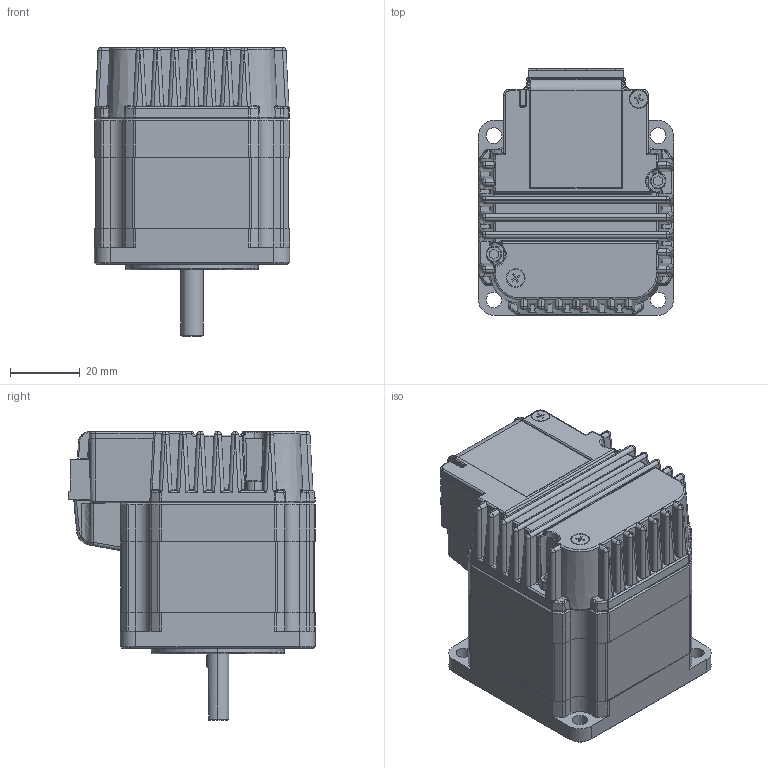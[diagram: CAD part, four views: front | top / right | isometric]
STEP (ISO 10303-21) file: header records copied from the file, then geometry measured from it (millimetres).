
FILE_DESCRIPTION (( 'STEP AP214' ), '1' );
FILE_NAME ('CM3-23S50A.STEP', '2021-03-15T16:20:14', ( '' ), ( '' ), 'SwSTEP 2.0', 'SolidWorks 2019', '' );
FILE_SCHEMA (( 'AUTOMOTIVE_DESIGN' ));
Length unit declared in the file: millimetre
Products named in the file (1): CM3-23S50A
Bounding box: 56 x 70.75 x 82.9 mm (x, y, z)
Volume: 182777.8 mm3; surface area: 32447.7 mm2
Topology: 1 solids, 10 shells, 1348 faces, 3459 edges, 2145 vertices
Faces by surface type: plane 593, cylinder 414, bspline 143, cone 85, torus 66, sphere 47
Entity records: 51207 total; most frequent: CARTESIAN_POINT 11280, ORIENTED_EDGE 6886, DIRECTION 6157, EDGE_CURVE 3443, VERTEX_POINT 2145, AXIS2_PLACEMENT_3D 2090, LINE 1977, VECTOR 1977
